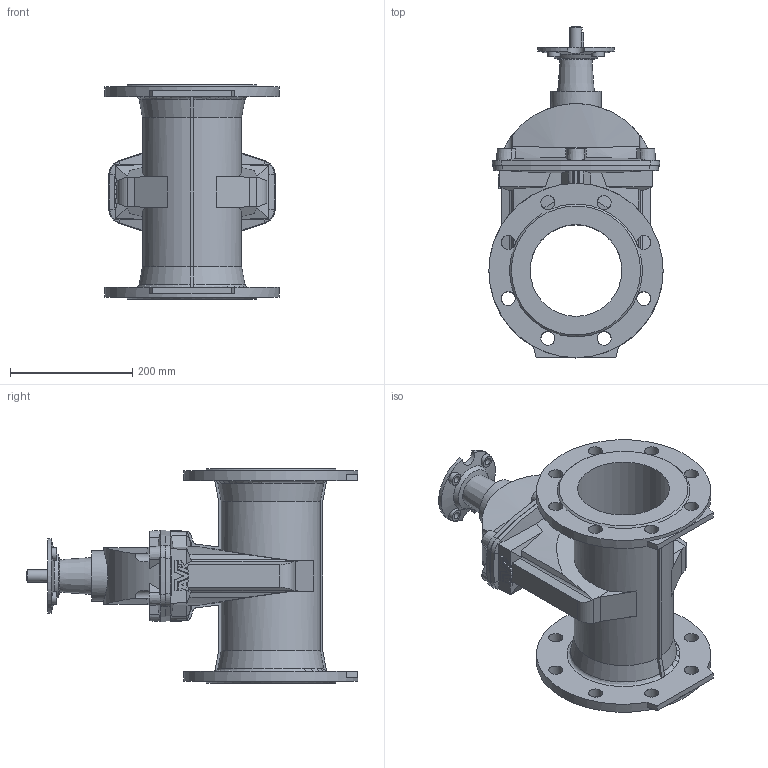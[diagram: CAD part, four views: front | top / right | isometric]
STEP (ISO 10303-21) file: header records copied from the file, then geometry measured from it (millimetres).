
FILE_DESCRIPTION (( 'STEP AP203' ), '1' );
FILE_NAME ('O_15_72_DN150_X1XXX099_AA0.step', '2017-03-10T08:55:02', ( 'Windows User' ), ( 'AVK' ), 'SwSTEP 2.0', 'SolidWorks 2012', '' );
FILE_SCHEMA (( 'CONFIG_CONTROL_DESIGN' ));
Length unit declared in the file: inch
Products named in the file (1): O_15_72_DN150_X1XXX099_AA0
Bounding box: 285 x 542.5 x 350 mm (x, y, z)
Volume: 7640747.6 mm3; surface area: 754594.2 mm2
Topology: 1 solids, 1 shells, 349 faces, 1005 edges, 655 vertices
Faces by surface type: plane 181, cylinder 101, cone 59, bspline 4, torus 2, sphere 2
Full cylindrical faces by diameter (mm): 12 x4, 20 x5, 23 x16, 82.4 x1, 150 x1, 285 x2
Entity records: 12642 total; most frequent: CARTESIAN_POINT 3926, ORIENTED_EDGE 1872, DIRECTION 1689, EDGE_CURVE 936, VERTEX_POINT 624, AXIS2_PLACEMENT_3D 603, LINE 483, VECTOR 483
